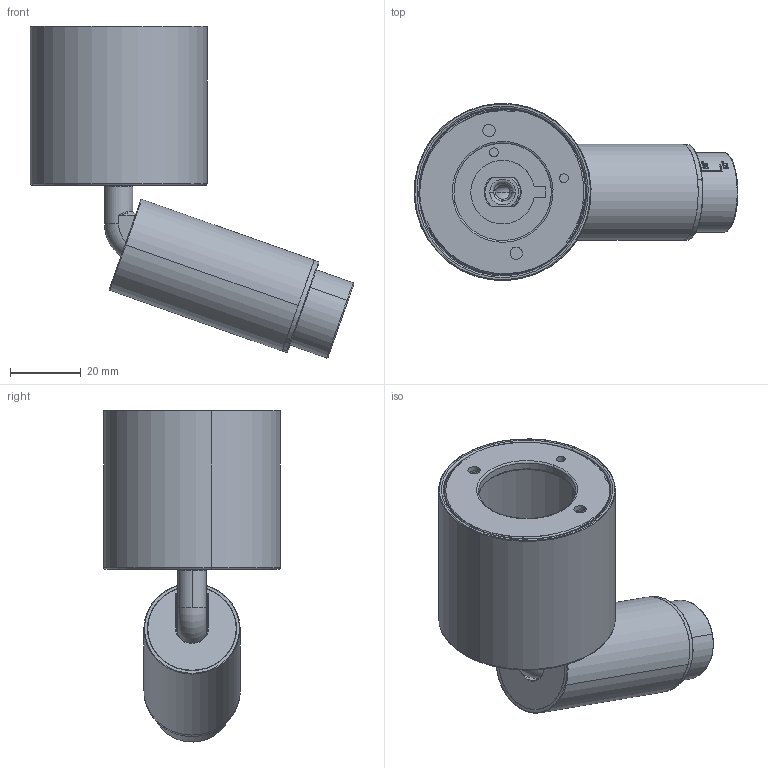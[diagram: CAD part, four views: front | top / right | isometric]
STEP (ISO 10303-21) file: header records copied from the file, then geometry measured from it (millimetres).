
FILE_DESCRIPTION (( 'STEP AP214' ), '1' );
FILE_NAME ('102113-35T.STEP', '2026-08-28T08:11:24', ( '' ), ( '' ), 'SwSTEP 2.0', 'SolidWorks 2023', '' );
FILE_SCHEMA (( 'AUTOMOTIVE_DESIGN' ));
Length unit declared in the file: millimetre
Products named in the file (1): 102113-35T
Bounding box: 91.4 x 49.95 x 93.76 mm (x, y, z)
Volume: 39526.3 mm3; surface area: 46565.4 mm2
Topology: 14 solids, 14 shells, 1069 faces, 2697 edges, 1675 vertices
Faces by surface type: cylinder 399, bspline 262, plane 211, torus 106, cone 58, sphere 33
Entity records: 78311 total; most frequent: CARTESIAN_POINT 55144, ORIENTED_EDGE 5328, DIRECTION 4143, EDGE_CURVE 2664, VERTEX_POINT 1673, AXIS2_PLACEMENT_3D 1645, EDGE_LOOP 1165, ADVANCED_FACE 1069
